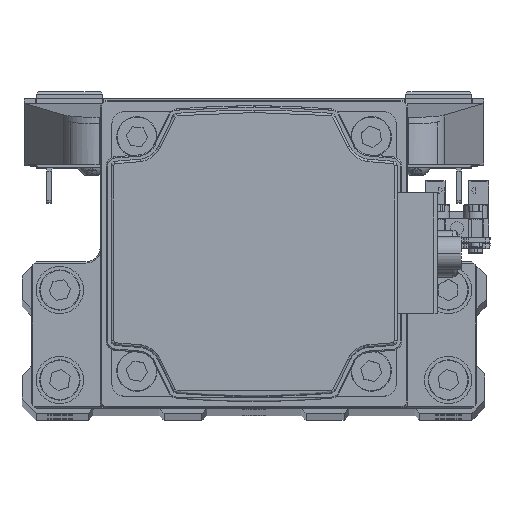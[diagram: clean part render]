
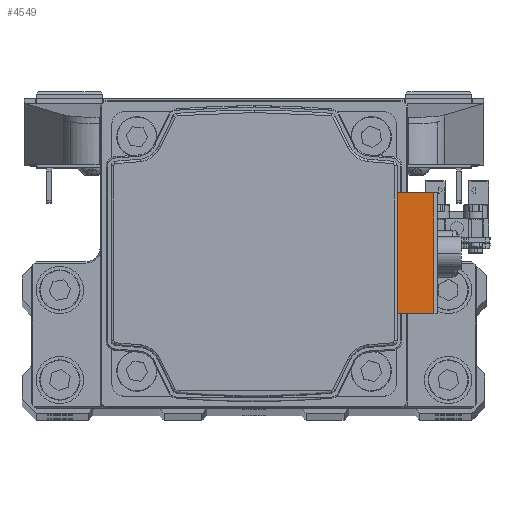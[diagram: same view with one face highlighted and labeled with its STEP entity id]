
A CAD part, top view. The second image highlights one B-rep face of the part: STEP entity #4549.
In plain terms, the highlighted planar face has unit normal (0, 0, 1) as drawn and (0, 0, -1) by its records, which use the part's own axes.
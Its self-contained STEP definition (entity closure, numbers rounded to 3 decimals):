
#1825 = DIRECTION ( 'NONE',  ( -1., 0., 0. ) ) ;
#1944 = VERTEX_POINT ( 'NONE', #21552 ) ;
#2184 = ORIENTED_EDGE ( 'NONE', *, *, #8925, .F. ) ;
#2294 = CARTESIAN_POINT ( 'NONE',  ( 0., 37.9, -88.696 ) ) ;
#2450 = CARTESIAN_POINT ( 'NONE',  ( 12.75, 33.991, -88.696 ) ) ;
#3908 = CARTESIAN_POINT ( 'NONE',  ( 12.75, 30.2, -88.696 ) ) ;
#4549 = ADVANCED_FACE ( 'NONE', ( #37554 ), #5351, .T. ) ;
#4598 = EDGE_CURVE ( 'NONE', #31719, #15641, #34493, .T. ) ;
#5351 = PLANE ( 'NONE',  #37779 ) ;
#6221 = LINE ( 'NONE', #20551, #39320 ) ;
#6348 = EDGE_LOOP ( 'NONE', ( #33063, #40904, #2184, #22327 ) ) ;
#7775 = CARTESIAN_POINT ( 'NONE',  ( 12.75, 37.9, -88.696 ) ) ;
#8792 = LINE ( 'NONE', #23112, #10077 ) ;
#8925 = EDGE_CURVE ( 'NONE', #44855, #15641, #34664, .T. ) ;
#10077 = VECTOR ( 'NONE', #37463, 1000. ) ;
#15641 = VERTEX_POINT ( 'NONE', #7775 ) ;
#16629 = DIRECTION ( 'NONE',  ( 1., 0., 0. ) ) ;
#16792 = DIRECTION ( 'NONE',  ( 0., 1., 0. ) ) ;
#16801 = VECTOR ( 'NONE', #16792, 1000. ) ;
#19695 = CARTESIAN_POINT ( 'NONE',  ( 0., 37.9, -88.696 ) ) ;
#20551 = CARTESIAN_POINT ( 'NONE',  ( 18.438, 30.2, -88.696 ) ) ;
#21552 = CARTESIAN_POINT ( 'NONE',  ( -12.75, 30.2, -88.696 ) ) ;
#22327 = ORIENTED_EDGE ( 'NONE', *, *, #27306, .F. ) ;
#23112 = CARTESIAN_POINT ( 'NONE',  ( -12.75, 37.9, -88.696 ) ) ;
#27296 = VECTOR ( 'NONE', #16629, 1000. ) ;
#27306 = EDGE_CURVE ( 'NONE', #1944, #44855, #6221, .T. ) ;
#29133 = EDGE_CURVE ( 'NONE', #1944, #31719, #8792, .T. ) ;
#31719 = VERTEX_POINT ( 'NONE', #37081 ) ;
#33063 = ORIENTED_EDGE ( 'NONE', *, *, #29133, .T. ) ;
#34039 = DIRECTION ( 'NONE',  ( 0., 0., -1. ) ) ;
#34493 = LINE ( 'NONE', #2294, #27296 ) ;
#34664 = LINE ( 'NONE', #2450, #16801 ) ;
#34896 = DIRECTION ( 'NONE',  ( 1., 0., 0. ) ) ;
#37081 = CARTESIAN_POINT ( 'NONE',  ( -12.75, 37.9, -88.696 ) ) ;
#37463 = DIRECTION ( 'NONE',  ( 0., 1., 0. ) ) ;
#37554 = FACE_OUTER_BOUND ( 'NONE', #6348, .T. ) ;
#37779 = AXIS2_PLACEMENT_3D ( 'NONE', #19695, #34039, #1825 ) ;
#39320 = VECTOR ( 'NONE', #34896, 1000. ) ;
#40904 = ORIENTED_EDGE ( 'NONE', *, *, #4598, .T. ) ;
#44855 = VERTEX_POINT ( 'NONE', #3908 ) ;
